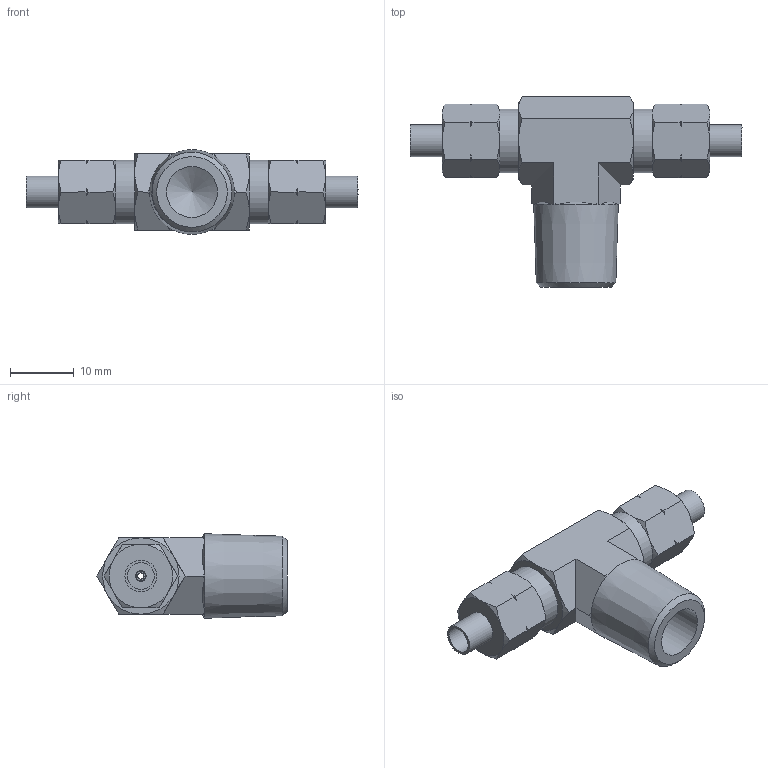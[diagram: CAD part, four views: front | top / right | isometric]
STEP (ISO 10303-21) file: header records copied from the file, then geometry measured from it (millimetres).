
FILE_DESCRIPTION(/* description */ (''),/* implementation_level */ '2;1');
FILE_NAME(/* name */ 'D:\CDC pneumatics\inventor\CT\CT 4x2-02.stp',/* time_stamp */ '2015-08-24T09:47:11+09:00',/* author */ ('DIAMOND'),/* organization */ (''),/* preprocessor_version */ 'ST-DEVELOPER v15.6',/* originating_system */ 'Autodesk Inventor 2015',/* authorisation */ '');
FILE_SCHEMA (('AUTOMOTIVE_DESIGN { 1 0 10303 214 3 1 1 }'));
Length unit declared in the file: millimetre
Products named in the file (1): CT 4x2-02
Bounding box: 52.16 x 29.93 x 13.3 mm (x, y, z)
Volume: 5080.3 mm3; surface area: 3880.5 mm2
Topology: 1 solids, 1 shells, 123 faces, 290 edges, 176 vertices
Faces by surface type: cone 75, plane 35, cylinder 11, torus 2
Full cylindrical faces by diameter (mm): 1 x2, 1.7 x2, 4.2 x2, 5 x2, 8 x1, 10 x2
Entity records: 3276 total; most frequent: CARTESIAN_POINT 899, ORIENTED_EDGE 530, DIRECTION 455, EDGE_CURVE 265, AXIS2_PLACEMENT_3D 206, VERTEX_POINT 168, EDGE_LOOP 151, FACE_OUTER_BOUND 123
